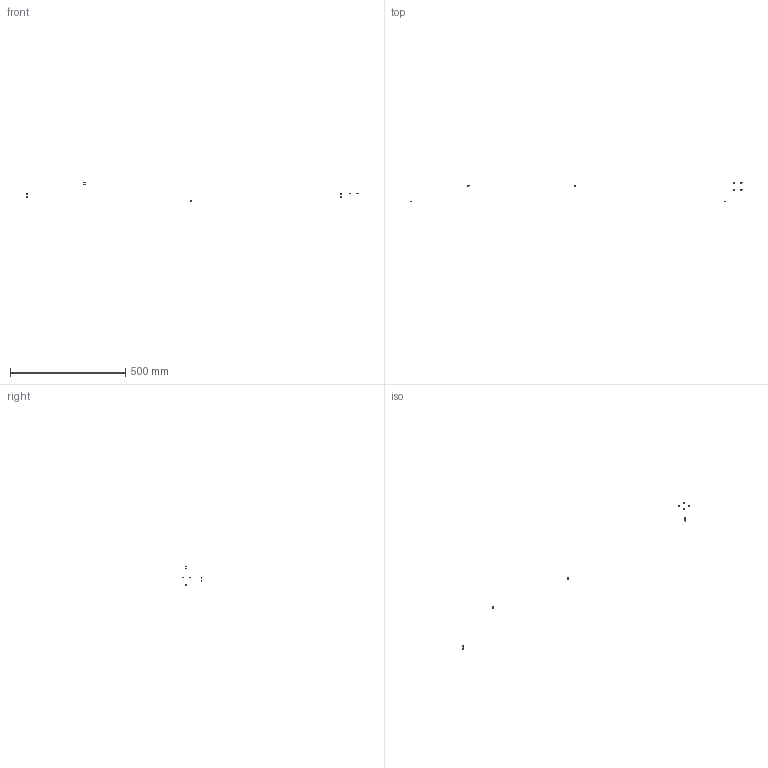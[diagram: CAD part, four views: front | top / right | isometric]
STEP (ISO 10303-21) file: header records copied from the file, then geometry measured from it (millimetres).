
FILE_DESCRIPTION(/* description */ (''),/* implementation_level */ '2;1');
FILE_NAME(/* name */ 'X-6703~1',/* time_stamp */ '2014-02-14T19:46:05+01:00',/* author */ (''),/* organization */ (''),/* preprocessor_version */ 'ST-DEVELOPER v14',/* originating_system */ '',/* authorisation */ '');
FILE_SCHEMA (('AUTOMOTIVE_DESIGN'));
Length unit declared in the file: millimetre
Products named in the file (2): Document; washer Schnorr-like, lock, M3
Assembly tree (12 placements, depth 2):
  Document
    washer Schnorr-like, lock, M3  x12
Bounding box: 1441.6 x 84.95 x 84.2 mm (x, y, z)
Surface area: 880.3 mm2 (no closed solid volume)
Topology: 0 solids, 160 shells, 160 faces, 640 edges, 640 vertices
Faces by surface type: bspline 160
Entity records: 6491 total; most frequent: CARTESIAN_POINT 3183, B_SPLINE_CURVE_WITH_KNOTS 432, ORIENTED_EDGE 288, PCURVE 288, DEFINITIONAL_REPRESENTATION 288, SURFACE_CURVE 288, EDGE_CURVE 288, VERTEX_POINT 288
